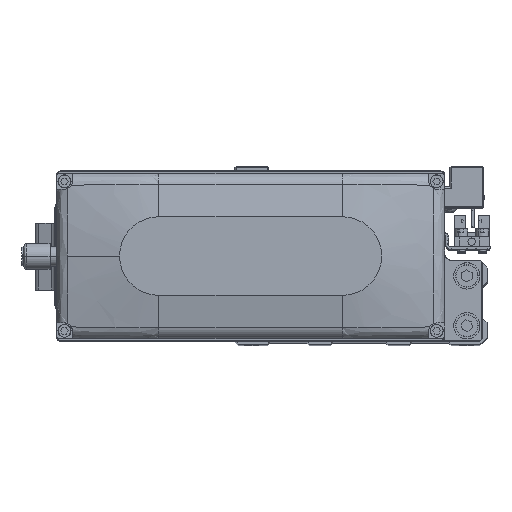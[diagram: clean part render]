
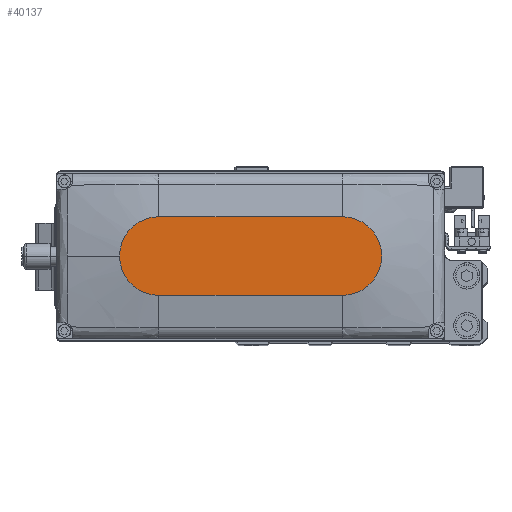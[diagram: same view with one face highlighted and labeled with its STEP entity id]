
A CAD part, top view. The second image highlights one B-rep face of the part: STEP entity #40137.
In plain terms, the highlighted planar face has unit normal (0, 0, 1).
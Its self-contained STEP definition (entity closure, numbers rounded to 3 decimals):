
#536 = DIRECTION ( 'NONE',  ( 0., 0., 1. ) ) ;
#2573 = DIRECTION ( 'NONE',  ( 1., 0., 0. ) ) ;
#2661 = DIRECTION ( 'NONE',  ( 1., 0., 0. ) ) ;
#2778 = ORIENTED_EDGE ( 'NONE', *, *, #30399, .T. ) ;
#3496 = DIRECTION ( 'NONE',  ( 0., 0., 1. ) ) ;
#3523 = AXIS2_PLACEMENT_3D ( 'NONE', #18028, #30436, #2573 ) ;
#5616 = PLANE ( 'NONE',  #3523 ) ;
#8395 = ORIENTED_EDGE ( 'NONE', *, *, #16376, .T. ) ;
#8699 = ORIENTED_EDGE ( 'NONE', *, *, #34635, .T. ) ;
#9942 = CIRCLE ( 'NONE', #32672, 15. ) ;
#10418 = CARTESIAN_POINT ( 'NONE',  ( -35., -15., 35. ) ) ;
#10448 = VECTOR ( 'NONE', #25354, 1000. ) ;
#12925 = DIRECTION ( 'NONE',  ( 1., 0., 0. ) ) ;
#12951 = CARTESIAN_POINT ( 'NONE',  ( -35., 15., 35. ) ) ;
#14553 = CARTESIAN_POINT ( 'NONE',  ( 50., 0., 35. ) ) ;
#15898 = DIRECTION ( 'NONE',  ( 1., 0., 0. ) ) ;
#16376 = EDGE_CURVE ( 'NONE', #37547, #17415, #20397, .T. ) ;
#17415 = VERTEX_POINT ( 'NONE', #35073 ) ;
#17821 = VERTEX_POINT ( 'NONE', #23351 ) ;
#18008 = EDGE_LOOP ( 'NONE', ( #26340, #8395, #8699, #2778, #19581 ) ) ;
#18028 = CARTESIAN_POINT ( 'NONE',  ( 0., 0., 35. ) ) ;
#18114 = CARTESIAN_POINT ( 'NONE',  ( 35., 0., 35. ) ) ;
#18328 = CIRCLE ( 'NONE', #23502, 15. ) ;
#19581 = ORIENTED_EDGE ( 'NONE', *, *, #37423, .T. ) ;
#20397 = CIRCLE ( 'NONE', #25615, 15. ) ;
#21954 = CARTESIAN_POINT ( 'NONE',  ( -35., 15., 35. ) ) ;
#22799 = DIRECTION ( 'NONE',  ( 1., 0., 0. ) ) ;
#23351 = CARTESIAN_POINT ( 'NONE',  ( 35., -15., 35. ) ) ;
#23502 = AXIS2_PLACEMENT_3D ( 'NONE', #31356, #3496, #15898 ) ;
#25354 = DIRECTION ( 'NONE',  ( -1., 0., 0. ) ) ;
#25498 = CARTESIAN_POINT ( 'NONE',  ( 35., 15., 35. ) ) ;
#25615 = AXIS2_PLACEMENT_3D ( 'NONE', #28411, #536, #12925 ) ;
#26340 = ORIENTED_EDGE ( 'NONE', *, *, #34939, .T. ) ;
#28411 = CARTESIAN_POINT ( 'NONE',  ( -35., 0., 35. ) ) ;
#30399 = EDGE_CURVE ( 'NONE', #17821, #37597, #18328, .T. ) ;
#30436 = DIRECTION ( 'NONE',  ( 0., 0., 1. ) ) ;
#30521 = DIRECTION ( 'NONE',  ( 0., 0., 1. ) ) ;
#31290 = VERTEX_POINT ( 'NONE', #25498 ) ;
#31356 = CARTESIAN_POINT ( 'NONE',  ( 35., 0., 35. ) ) ;
#31471 = LINE ( 'NONE', #12951, #10448 ) ;
#32672 = AXIS2_PLACEMENT_3D ( 'NONE', #18114, #30521, #2661 ) ;
#33494 = FACE_OUTER_BOUND ( 'NONE', #18008, .T. ) ;
#34635 = EDGE_CURVE ( 'NONE', #17415, #17821, #38283, .T. ) ;
#34939 = EDGE_CURVE ( 'NONE', #31290, #37547, #31471, .T. ) ;
#35073 = CARTESIAN_POINT ( 'NONE',  ( -35., -15., 35. ) ) ;
#37423 = EDGE_CURVE ( 'NONE', #37597, #31290, #9942, .T. ) ;
#37547 = VERTEX_POINT ( 'NONE', #21954 ) ;
#37597 = VERTEX_POINT ( 'NONE', #14553 ) ;
#37699 = VECTOR ( 'NONE', #22799, 1000. ) ;
#38283 = LINE ( 'NONE', #10418, #37699 ) ;
#40137 = ADVANCED_FACE ( 'NONE', ( #33494 ), #5616, .T. ) ;
